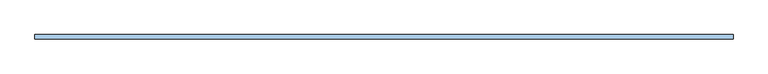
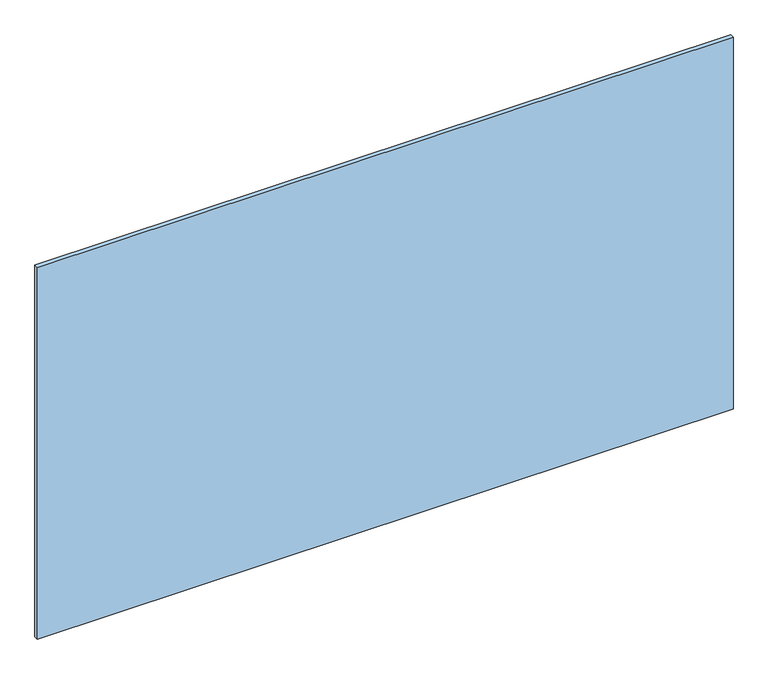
"""IFC4 building model written with IfcOpenShell, lengths in millimetres: window geometry, espejo biselado sin marco : ESP11-espejo biselado 177 x 100."""

from ifc_helpers import new_model, si_unit, origin, origin_with_axes, place, context, project, spatial, polyline, outline, extrude, source, transform, mapped, element, save


def window_e5abd41f(model_context):
    return source(origin(), model_context, "Body", "SweptSolid", [
        extrude(outline(polyline([(-885.0, 19.0), (-885.0, 30.0), (885.0, 30.0), (885.0, 19.0), (-885.0, 19.0)])), origin_with_axes(), (0.0, 0.0, 1.0), 1000.0),
    ])


if __name__ == "__main__":
    model = new_model("IFC4")
    model_context = context("Model", 3, world=origin())
    ifc_project = project(units=[si_unit("LENGTHUNIT", "METRE", prefix="MILLI")], contexts=[model_context])
    site = spatial("IfcSite", under=ifc_project)
    building = spatial("IfcBuilding", under=site)
    placement = place(None, origin())
    window_shape = window_e5abd41f(model_context)
    element("IfcWindow", 1, ObjectType="espejo biselado sin marco : ESP11-espejo biselado 177 x 100", at=placement, inside=building, context=model_context, shape_type="MappedRepresentation", body=[
        mapped(window_shape, transform((0.0, 0.0, 0.0), x_axis=(1.0, 0.0, 0.0), y_axis=(0.0, 1.0, 0.0), z_axis=(0.0, 0.0, 1.0))),
    ])
    save(model, "model.ifc")
